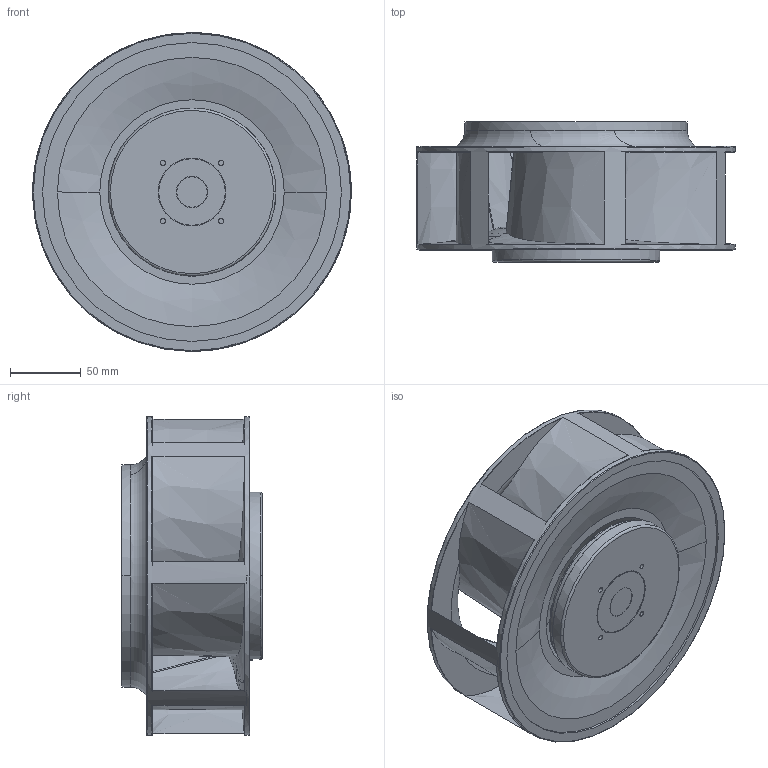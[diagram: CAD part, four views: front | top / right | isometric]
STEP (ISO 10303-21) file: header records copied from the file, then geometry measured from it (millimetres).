
FILE_DESCRIPTION((''),'2;1');
FILE_NAME('225X99','2017-07-19T',('Miyazawa-Masashi'),(''),'PRO/ENGINEER BY PARAMETRIC TECHNOLOGY CORPORATION, 2013320','PRO/ENGINEER BY PARAMETRIC TECHNOLOGY CORPORATION, 2013320','');
FILE_SCHEMA(('CONFIG_CONTROL_DESIGN'));
Products named in the file (1): 225X99
Bounding box: 225 x 99 x 225 mm (x, y, z)
Volume: 742807.8 mm3; surface area: 289809.9 mm2
Topology: 1 solids, 6 shells, 1071 faces, 2674 edges, 1610 vertices
Faces by surface type: bspline 372, cylinder 211, torus 194, plane 185, cone 89, sphere 20
Entity records: 52716 total; most frequent: CARTESIAN_POINT 30563, ORIENTED_EDGE 5324, DIRECTION 3729, EDGE_CURVE 2662, AXIS2_PLACEMENT_3D 1640, VERTEX_POINT 1610, B_SPLINE_CURVE_WITH_KNOTS 1272, EDGE_LOOP 1094
